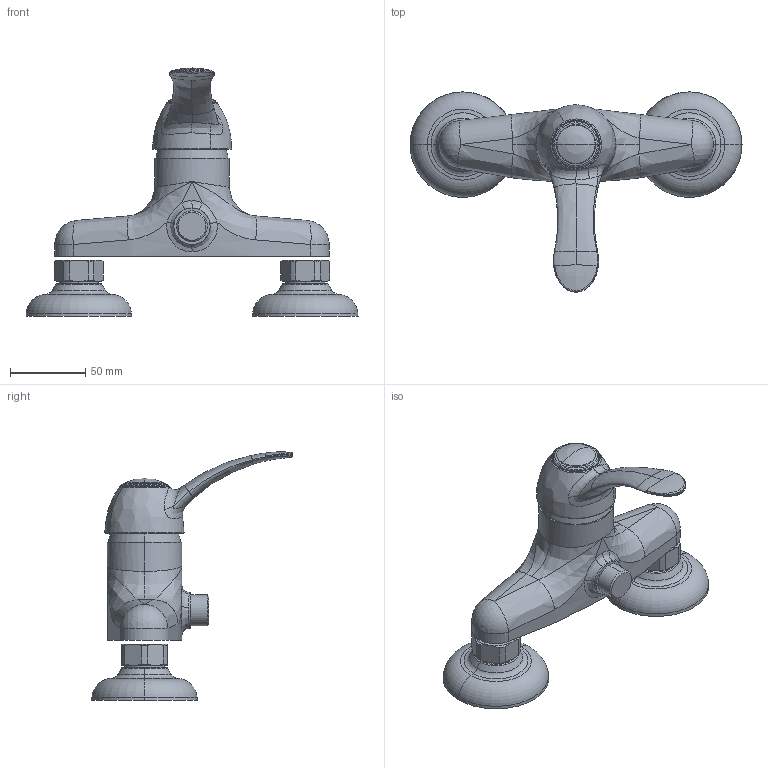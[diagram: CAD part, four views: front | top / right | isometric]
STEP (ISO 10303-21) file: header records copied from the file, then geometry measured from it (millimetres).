
FILE_DESCRIPTION((''),'2;1');
FILE_NAME('F3305_FILE_3D','2013-08-07T',('ivanv'),(''),'PRO/ENGINEER BY PARAMETRIC TECHNOLOGY CORPORATION, 2012130','PRO/ENGINEER BY PARAMETRIC TECHNOLOGY CORPORATION, 2012130','');
FILE_SCHEMA(('CONFIG_CONTROL_DESIGN'));
Length unit declared in the file: millimetre
Products named in the file (1): F3305_FILE_3D
Bounding box: 220 x 133 x 164.44 mm (x, y, z)
Volume: 453465.2 mm3; surface area: 67506.1 mm2
Topology: 3 solids, 3 shells, 226 faces, 499 edges, 291 vertices
Faces by surface type: bspline 54, cone 54, cylinder 47, plane 36, torus 29, sphere 6
Entity records: 15417 total; most frequent: CARTESIAN_POINT 10776, ORIENTED_EDGE 994, DIRECTION 904, EDGE_CURVE 497, AXIS2_PLACEMENT_3D 406, VERTEX_POINT 291, EDGE_LOOP 240, CIRCLE 233
